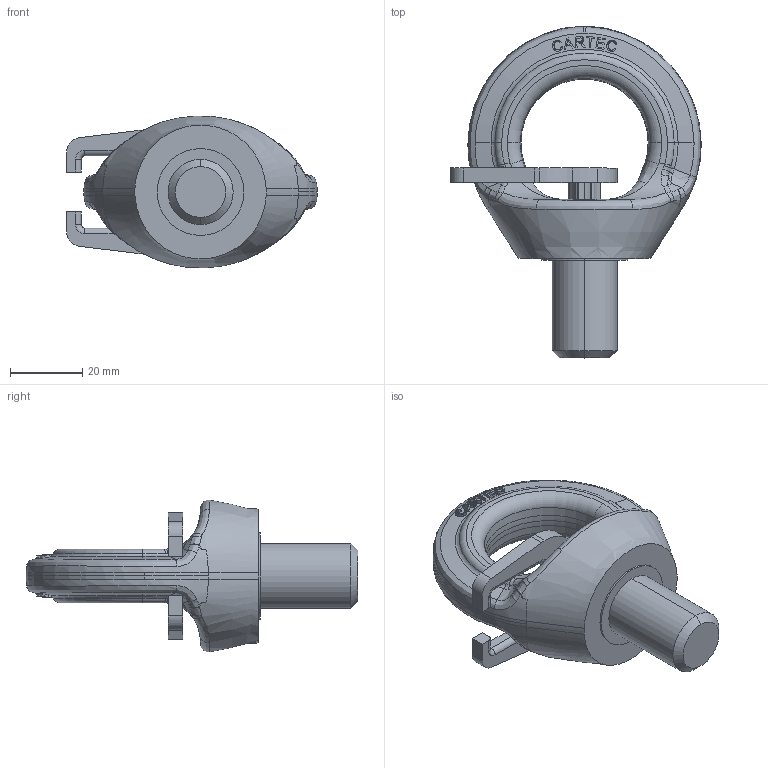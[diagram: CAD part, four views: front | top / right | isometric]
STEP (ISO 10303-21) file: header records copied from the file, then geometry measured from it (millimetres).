
FILE_DESCRIPTION(('STEP AP214'),'1');
FILE_NAME('c807ht18.stp','2017-03-27T13:27:19',('TraceParts'),('TraceParts S.A.'),'Spatial InterOp 3D',' ',' ');
FILE_SCHEMA(('automotive_design'));
Length unit declared in the file: millimetre
Products named in the file (3): c807ht18_1; c807ht18_2; c807ht18_3
Bounding box: 69.27 x 91.77 x 41.97 mm (x, y, z)
Volume: 52994.8 mm3; surface area: 17983 mm2
Topology: 3 solids, 3 shells, 413 faces, 1079 edges, 678 vertices
Faces by surface type: bspline 155, plane 134, cylinder 68, torus 36, cone 20
Entity records: 27672 total; most frequent: CARTESIAN_POINT 15075, ORIENTED_EDGE 2136, DIRECTION 1649, EDGE_CURVE 1068, VERTEX_POINT 678, AXIS2_PLACEMENT_3D 630, EDGE_LOOP 434, STYLED_ITEM 416
